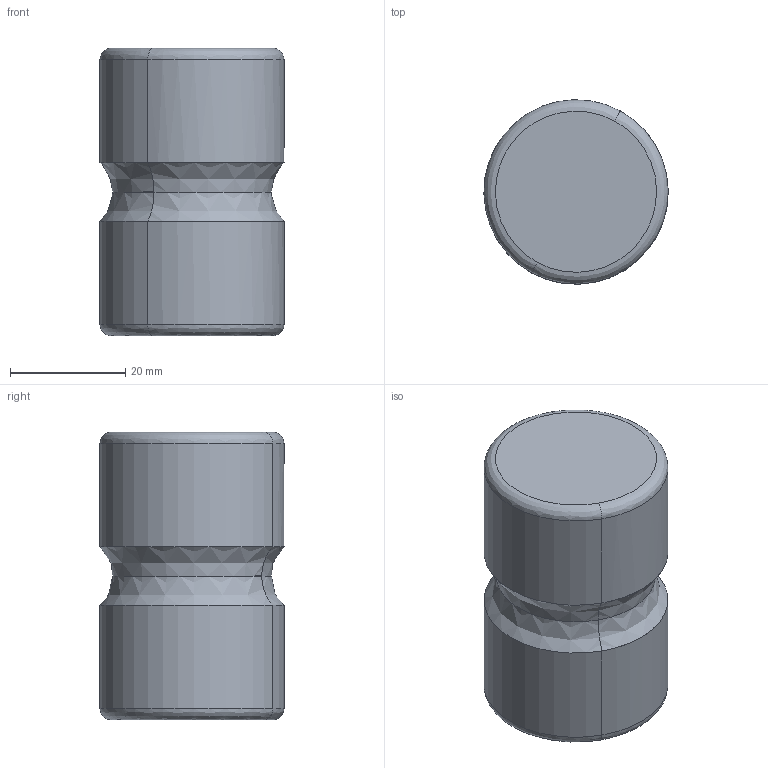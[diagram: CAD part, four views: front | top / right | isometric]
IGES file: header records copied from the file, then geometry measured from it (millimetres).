
Start section: START RECORD GO HERE.
Global section: file name: A519-32.igs; native system: DASSAULT SYSTEMES CATIA V5 R20 - www.3ds.com; preprocessor: CATIA Version 5 Release 20 ; author: Utente; organization: NB04-ASUS; date: 20211130.120857; units: millimetre
Bounding box: 31.99 x 31.99 x 50 mm (x, y, z)
Surface area: 6477.8 mm2 (no closed solid volume)
Topology: 0 solids, 0 shells, 14 faces, 52 edges, 52 vertices
Faces by surface type: revolution 12, plane 2
